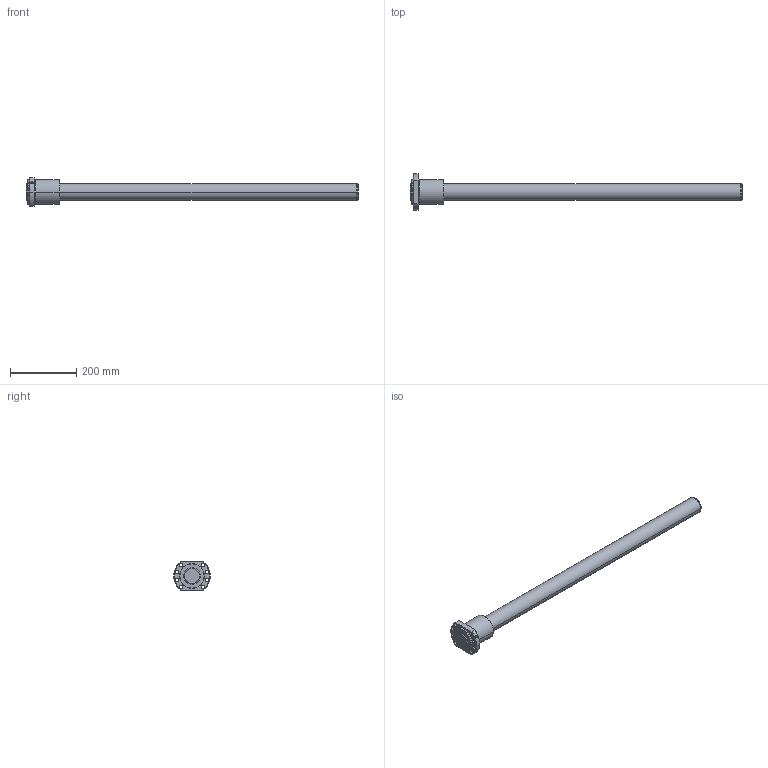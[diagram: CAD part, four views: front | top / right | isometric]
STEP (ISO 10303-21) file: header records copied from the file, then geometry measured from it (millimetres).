
FILE_DESCRIPTION( ( '' ), '1' );
FILE_NAME( 'C:/Users/v3-771-32344/Desktop/EBB STEP/EBB 5010-4 RRNone+1000L C7(894070)-ebb3.stp', '2015-08-27T13:41:54', ( '' ), ( '' ), ' ', ' ', ' ' );
FILE_SCHEMA( ( 'CONFIG_CONTROL_DESIGN' ) );
Length unit declared in the file: millimetre
Products named in the file (2): 1; 2
Bounding box: 1000 x 110 x 85 mm (x, y, z)
Volume: 2244389.1 mm3; surface area: 218964.6 mm2
Topology: 2 solids, 2 shells, 71 faces, 167 edges, 107 vertices
Faces by surface type: cylinder 40, cone 18, plane 13
Entity records: 2315 total; most frequent: CARTESIAN_POINT 497, DIRECTION 394, ORIENTED_EDGE 334, AXIS2_PLACEMENT_3D 167, EDGE_CURVE 167, VERTEX_POINT 107, EDGE_LOOP 98, CIRCLE 94
